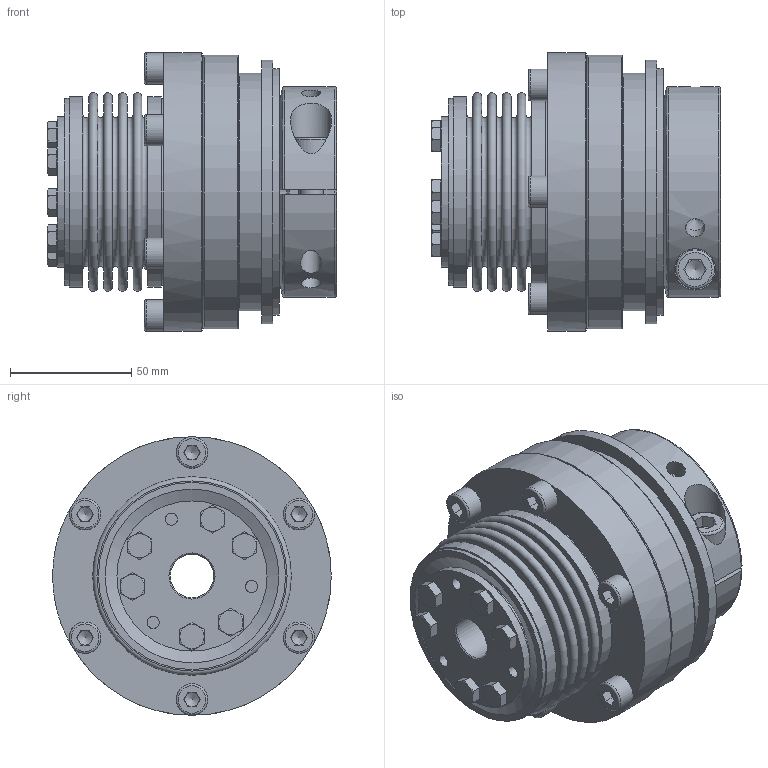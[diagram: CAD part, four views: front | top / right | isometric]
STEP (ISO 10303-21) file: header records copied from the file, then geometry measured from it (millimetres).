
FILE_DESCRIPTION( ( 'Unknown' ), '1' );
FILE_NAME( 'F:/JAKOB-STEP+IGES-Dateien/STEP-Dateien/SKB-KS/SKB-KS 230.stp', 'Unknown', ( 'Unknown' ), ( 'Unknown' ), 'PSStep 10.1', 'Unknown', ' ' );
FILE_SCHEMA( ( 'AUTOMOTIVE_DESIGN { 1 0 10303 214 1 1 1 1 }' ) );
Length unit declared in the file: millimetre
Products named in the file (1): KT100088-oa9
Bounding box: 119.35 x 115 x 115 mm (x, y, z)
Volume: 597956.5 mm3; surface area: 192622.7 mm2
Topology: 1 solids, 9 shells, 543 faces, 1398 edges, 895 vertices
Faces by surface type: plane 274, cylinder 107, torus 79, cone 67, sphere 12, bspline 4
Full cylindrical faces by diameter (mm): 2.5 x2, 5 x10, 6 x7, 6.3 x6, 6.8 x6, 8 x9, 8.5 x1, 8.6 x6, 8.7 x6, 10 x1, 10.5 x1, 13 x6, 16 x1, 17 x1, 18 x1, 24 x1, 36 x1, 41.4 x1, 47.5 x1, 49.8 x1, 50 x2, 58 x2, 62 x2, 62.5 x2, 65 x1, 65.1 x1, 71 x1, 77.3 x2, 78.1 x2, 78.5 x2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
Entity records: 21021 total; most frequent: CARTESIAN_POINT 4803, DIRECTION 2464, ORIENTED_EDGE 2212, EDGE_CURVE 1106, AXIS2_PLACEMENT_3D 1044, EDGE_LOOP 820, VERTEX_POINT 788, FACE_OUTER_BOUND 674
